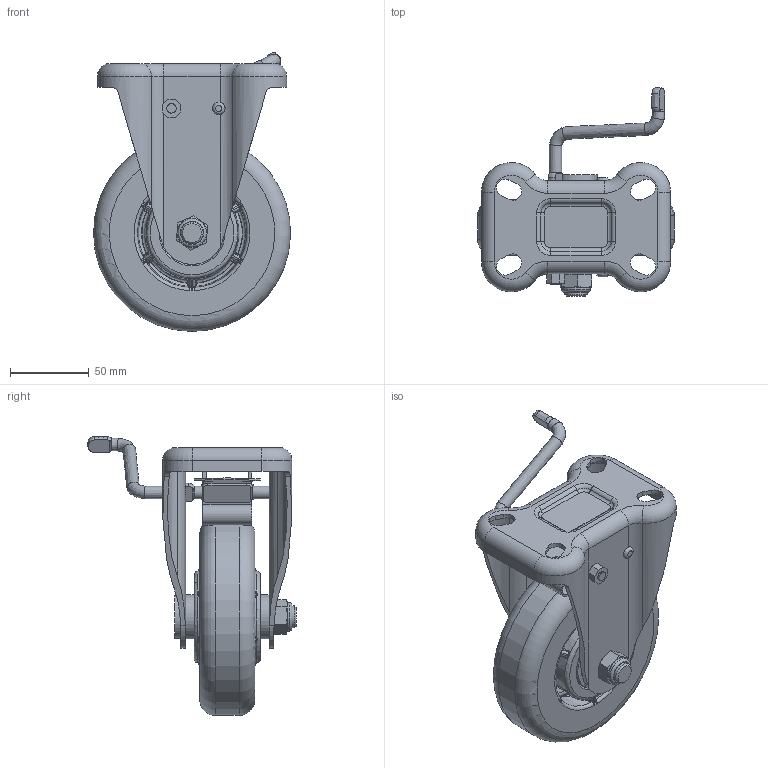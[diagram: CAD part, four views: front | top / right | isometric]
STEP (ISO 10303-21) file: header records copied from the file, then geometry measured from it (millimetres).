
FILE_DESCRIPTION(/* description */ (''),/* implementation_level */ '2;1');
FILE_NAME(/* name */ '25X13_5_F.stp',/* time_stamp */ '2022-08-27T15:25:24+08:00',/* author */ (''),/* organization */ (''),/* preprocessor_version */ 'ST-DEVELOPER v14',/* originating_system */ 'SIEMENS PLM Software NX 8.0',/* authorisation */ '');
FILE_SCHEMA (('AUTOMOTIVE_DESIGN { 1 0 10303 214 3 1 1 1 }'));
Length unit declared in the file: millimetre
Products named in the file (1): 25X13_5_F
Bounding box: 124.96 x 132.2 x 176.91 mm (x, y, z)
Volume: 483540.1 mm3; surface area: 129261.8 mm2
Topology: 1 solids, 4 shells, 916 faces, 2292 edges, 1417 vertices
Faces by surface type: plane 345, bspline 258, cylinder 193, torus 69, cone 51
Full cylindrical faces by diameter (mm): 6 x3, 6.1 x1, 6.2 x2, 14 x1, 17 x3, 18 x1, 20.5 x2, 24.188 x4, 27 x1, 28 x2, 32.812 x2, 39.85 x2, 40 x2
Entity records: 32480 total; most frequent: CARTESIAN_POINT 13252, ORIENTED_EDGE 4388, DIRECTION 3397, EDGE_CURVE 2194, AXIS2_PLACEMENT_3D 1385, VERTEX_POINT 1375, EDGE_LOOP 1033, ADVANCED_FACE 916
